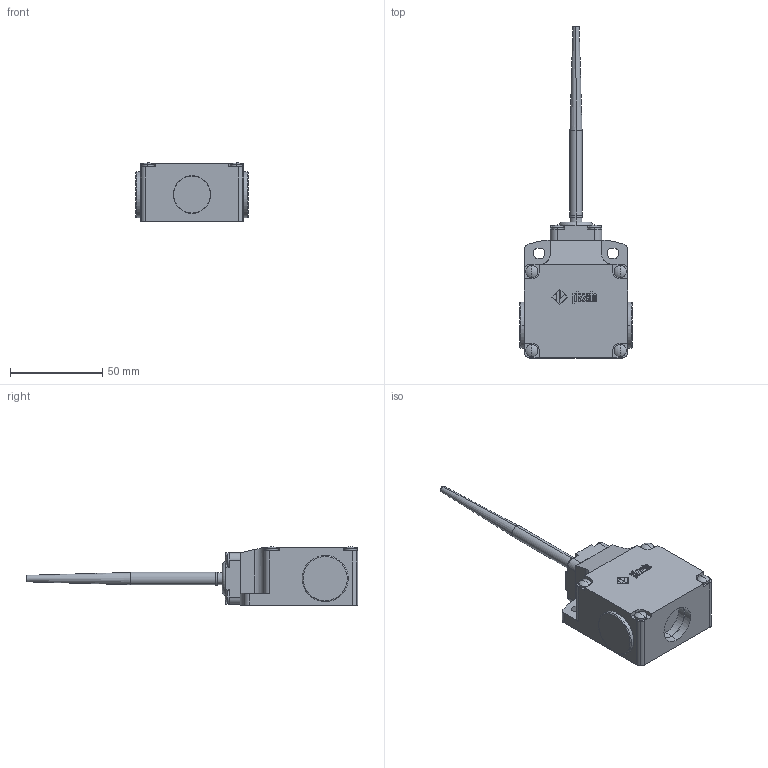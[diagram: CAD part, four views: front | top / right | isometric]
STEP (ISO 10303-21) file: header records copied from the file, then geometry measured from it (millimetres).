
FILE_DESCRIPTION (( 'STEP AP214' ), '1' );
FILE_NAME ('ZF_STEP_FL_x20_A13.step', '2014-04-10T09:04:42', ( 'utente' ), ( 'Microsoft' ), 'SwSTEP 2.0', 'SolidWorks 2013', '' );
FILE_SCHEMA (( 'AUTOMOTIVE_DESIGN' ));
Length unit declared in the file: millimetre
Products named in the file (4): ZF_STEP_VF_T20_A10; Pizzato_Tappo_Protezione_PG13_M20_PG13; Pizzato_Custodia_FL; ZF_STEP_FL_x20_A13
Assembly tree (4 placements, depth 2):
  ZF_STEP_FL_x20_A13
    Pizzato_Custodia_FL
    Pizzato_Tappo_Protezione_PG13_M20_PG13  x2
    ZF_STEP_VF_T20_A10
Bounding box: 60.8 x 180 x 31.8 mm (x, y, z)
Volume: 108800.8 mm3; surface area: 25362.3 mm2
Topology: 4 solids, 4 shells, 455 faces, 1164 edges, 770 vertices
Faces by surface type: plane 260, cylinder 96, bspline 73, sphere 16, torus 8, cone 2
Entity records: 17052 total; most frequent: CARTESIAN_POINT 6312, ORIENTED_EDGE 2296, DIRECTION 1976, EDGE_CURVE 1148, LINE 784, VECTOR 784, VERTEX_POINT 760, AXIS2_PLACEMENT_3D 596
